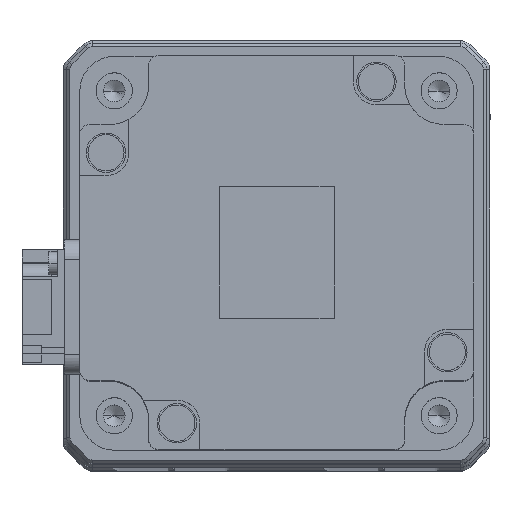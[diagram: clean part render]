
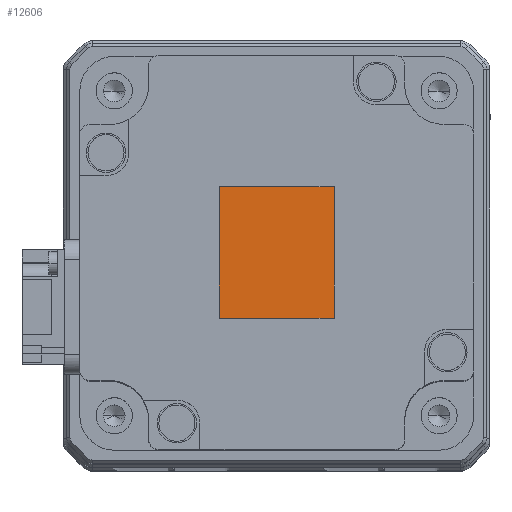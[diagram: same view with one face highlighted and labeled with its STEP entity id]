
A CAD part, top view. The second image highlights one B-rep face of the part: STEP entity #12606.
In plain terms, the highlighted planar face has unit normal (0, 0, 1) as drawn and (0, 0, -1) by its records, which use the part's own axes.
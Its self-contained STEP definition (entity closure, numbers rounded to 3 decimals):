
#1681 = LINE ( 'NONE', #33184, #7861 ) ;
#2652 = CARTESIAN_POINT ( 'NONE',  ( -10., 8.75, -80.1 ) ) ;
#4294 = CARTESIAN_POINT ( 'NONE',  ( -10., -8.75, -80.1 ) ) ;
#6562 = ORIENTED_EDGE ( 'NONE', *, *, #28065, .T. ) ;
#7861 = VECTOR ( 'NONE', #17703, 1000. ) ;
#8147 = VECTOR ( 'NONE', #21876, 1000. ) ;
#8308 = EDGE_CURVE ( 'NONE', #22440, #16070, #15856, .T. ) ;
#8957 = VECTOR ( 'NONE', #26037, 1000. ) ;
#9199 = FACE_OUTER_BOUND ( 'NONE', #27315, .T. ) ;
#10546 = ORIENTED_EDGE ( 'NONE', *, *, #29588, .T. ) ;
#11556 = EDGE_CURVE ( 'NONE', #11729, #14348, #20493, .T. ) ;
#11729 = VERTEX_POINT ( 'NONE', #12632 ) ;
#11732 = DIRECTION ( 'NONE',  ( 0., 0., -1. ) ) ;
#12606 = ADVANCED_FACE ( 'NONE', ( #9199 ), #24552, .T. ) ;
#12632 = CARTESIAN_POINT ( 'NONE',  ( 10., 8.75, -80.1 ) ) ;
#14348 = VERTEX_POINT ( 'NONE', #28123 ) ;
#15856 = LINE ( 'NONE', #2652, #8957 ) ;
#16070 = VERTEX_POINT ( 'NONE', #23693 ) ;
#16610 = ORIENTED_EDGE ( 'NONE', *, *, #8308, .T. ) ;
#17703 = DIRECTION ( 'NONE',  ( 1., 0., 0. ) ) ;
#19134 = AXIS2_PLACEMENT_3D ( 'NONE', #24662, #11732, #29830 ) ;
#19300 = CARTESIAN_POINT ( 'NONE',  ( 10., -8.75, -80.1 ) ) ;
#19607 = CARTESIAN_POINT ( 'NONE',  ( 10., 8.75, -80.1 ) ) ;
#20493 = LINE ( 'NONE', #19607, #26550 ) ;
#21876 = DIRECTION ( 'NONE',  ( -1., 0., 0. ) ) ;
#22440 = VERTEX_POINT ( 'NONE', #4294 ) ;
#23693 = CARTESIAN_POINT ( 'NONE',  ( -10., 8.75, -80.1 ) ) ;
#24552 = PLANE ( 'NONE',  #19134 ) ;
#24662 = CARTESIAN_POINT ( 'NONE',  ( 10., -8.75, -80.1 ) ) ;
#24788 = DIRECTION ( 'NONE',  ( 0., -1., 0. ) ) ;
#26037 = DIRECTION ( 'NONE',  ( 0., 1., 0. ) ) ;
#26230 = ORIENTED_EDGE ( 'NONE', *, *, #11556, .T. ) ;
#26550 = VECTOR ( 'NONE', #24788, 1000. ) ;
#27315 = EDGE_LOOP ( 'NONE', ( #16610, #6562, #26230, #10546 ) ) ;
#28065 = EDGE_CURVE ( 'NONE', #16070, #11729, #1681, .T. ) ;
#28123 = CARTESIAN_POINT ( 'NONE',  ( 10., -8.75, -80.1 ) ) ;
#28794 = LINE ( 'NONE', #19300, #8147 ) ;
#29588 = EDGE_CURVE ( 'NONE', #14348, #22440, #28794, .T. ) ;
#29830 = DIRECTION ( 'NONE',  ( -1., 0., 0. ) ) ;
#33184 = CARTESIAN_POINT ( 'NONE',  ( 10., 8.75, -80.1 ) ) ;
